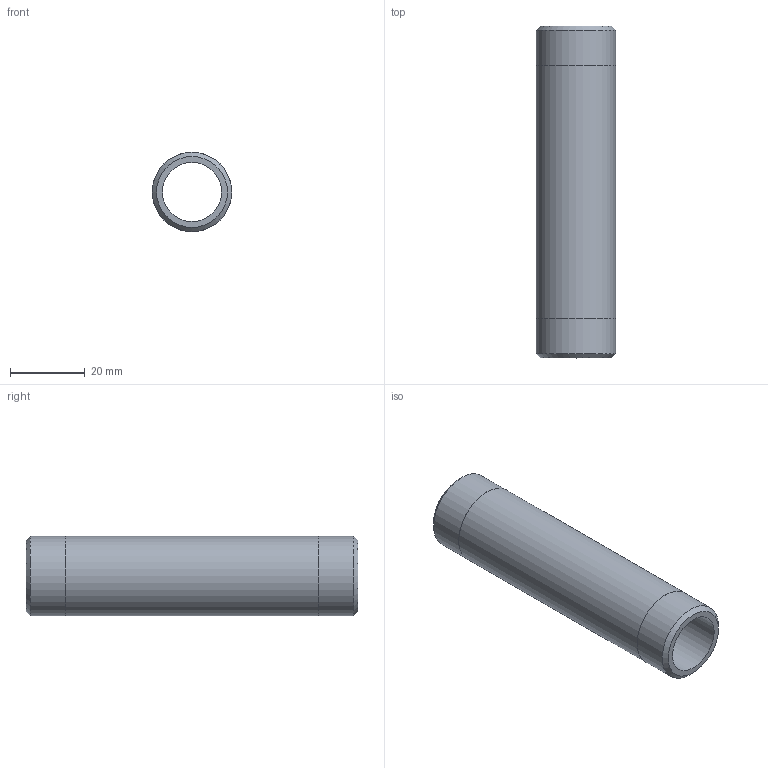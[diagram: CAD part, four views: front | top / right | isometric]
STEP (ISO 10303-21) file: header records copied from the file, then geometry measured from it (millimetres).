
FILE_DESCRIPTION(/* description */ (''),/* implementation_level */ '2;1');
FILE_NAME(/* name */ 'C:/Users/drich/Desktop/SSPN12-3-1_2 v1.step',/* time_stamp */ '2020-01-04T12:50:32-06:00',/* author */ (''),/* organization */ (''),/* preprocessor_version */ 'ST-DEVELOPER v18',/* originating_system */ 'Autodesk Translation Framework v8.12.0.6',/* authorisation */ '');
FILE_SCHEMA (('AUTOMOTIVE_DESIGN { 1 0 10303 214 3 1 1 }'));
Length unit declared in the file: inch
Products named in the file (1): SSPN12-3-1_2
Bounding box: 21.34 x 88.9 x 21.34 mm (x, y, z)
Volume: 14236.5 mm3; surface area: 10597.9 mm2
Topology: 1 solids, 1 shells, 10 faces, 24 edges, 18 vertices
Faces by surface type: cylinder 4, plane 4, cone 2
Full cylindrical faces by diameter (mm): 15.799 x1, 21.285 x2, 21.336 x1
Entity records: 353 total; most frequent: DIRECTION 64, CARTESIAN_POINT 53, ORIENTED_EDGE 48, AXIS2_PLACEMENT_3D 29, EDGE_CURVE 24, CIRCLE 18, VERTEX_POINT 18, EDGE_LOOP 14
